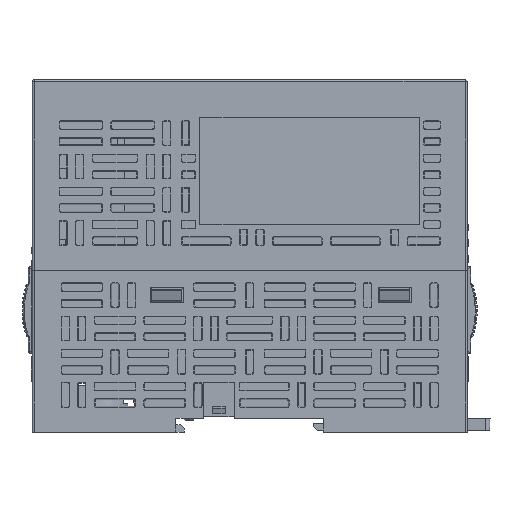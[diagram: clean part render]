
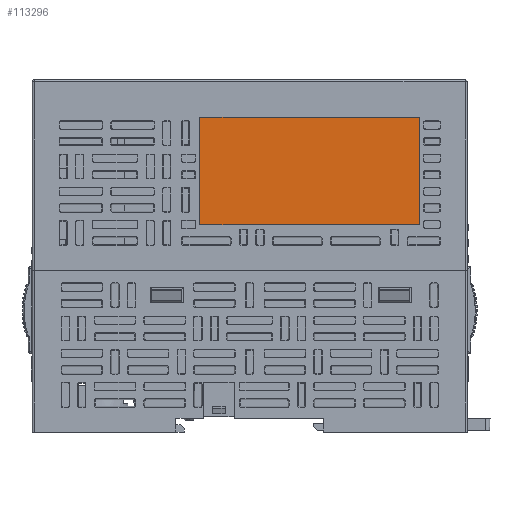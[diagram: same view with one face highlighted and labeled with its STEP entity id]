
A CAD part, left-side view. The second image highlights one B-rep face of the part: STEP entity #113296.
In plain terms, the highlighted planar face has unit normal (-1, 0, 0).
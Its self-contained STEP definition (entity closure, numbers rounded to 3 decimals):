
#76266=DIRECTION('',(0.,-1.,0.));
#76267=VECTOR('',#76266,53.);
#76268=CARTESIAN_POINT('',(-12.,12.,50.));
#76269=LINE('',#76268,#76267);
#76270=DIRECTION('',(0.,0.,-1.));
#76271=VECTOR('',#76270,26.);
#76272=CARTESIAN_POINT('',(-12.,12.,76.));
#76273=LINE('',#76272,#76271);
#76274=DIRECTION('',(0.,1.,0.));
#76275=VECTOR('',#76274,53.);
#76276=CARTESIAN_POINT('',(-12.,-41.,76.));
#76277=LINE('',#76276,#76275);
#76278=DIRECTION('',(0.,0.,1.));
#76279=VECTOR('',#76278,26.);
#76280=CARTESIAN_POINT('',(-12.,-41.,50.));
#76281=LINE('',#76280,#76279);
#78166=CARTESIAN_POINT('',(-12.,12.,50.));
#78167=CARTESIAN_POINT('',(-12.,-41.,50.));
#78168=VERTEX_POINT('',#78166);
#78169=VERTEX_POINT('',#78167);
#78170=CARTESIAN_POINT('',(-12.,-41.,76.));
#78171=VERTEX_POINT('',#78170);
#78172=CARTESIAN_POINT('',(-12.,12.,76.));
#78173=VERTEX_POINT('',#78172);
#113285=CARTESIAN_POINT('',(-12.,0.,85.));
#113286=DIRECTION('',(-1.,0.,0.));
#113287=DIRECTION('',(0.,0.,1.));
#113288=AXIS2_PLACEMENT_3D('',#113285,#113286,#113287);
#113289=PLANE('',#113288);
#113290=ORIENTED_EDGE('',*,*,#113237,.F.);
#113291=ORIENTED_EDGE('',*,*,#113252,.F.);
#113292=ORIENTED_EDGE('',*,*,#113266,.F.);
#113293=ORIENTED_EDGE('',*,*,#113279,.F.);
#113294=EDGE_LOOP('',(#113290,#113291,#113292,#113293));
#113295=FACE_OUTER_BOUND('',#113294,.F.);
#113296=ADVANCED_FACE('',(#113295),#113289,.T.);
#113237=EDGE_CURVE('',#78168,#78169,#76269,.T.);
#113252=EDGE_CURVE('',#78173,#78168,#76273,.T.);
#113266=EDGE_CURVE('',#78171,#78173,#76277,.T.);
#113279=EDGE_CURVE('',#78169,#78171,#76281,.T.);
